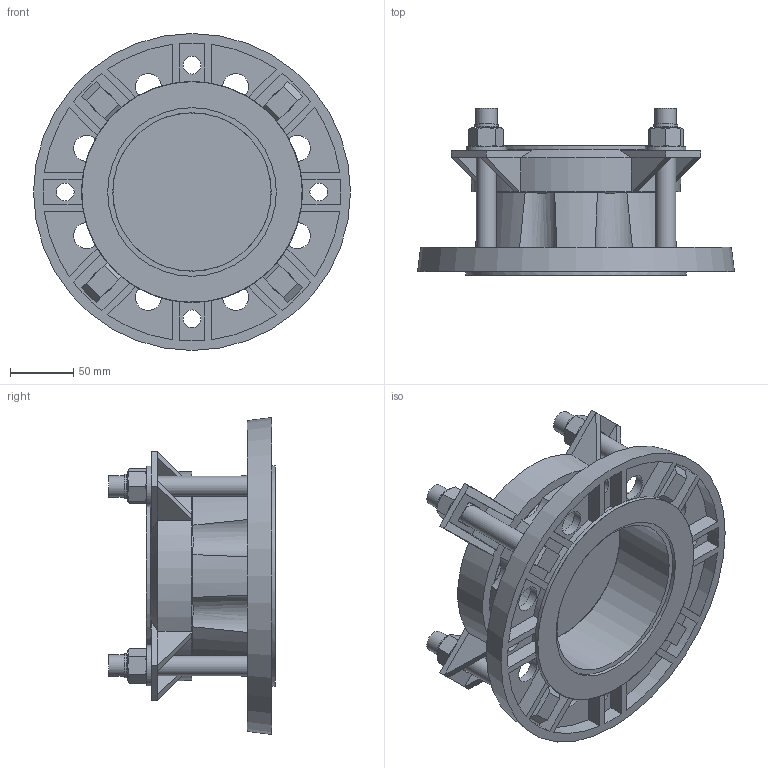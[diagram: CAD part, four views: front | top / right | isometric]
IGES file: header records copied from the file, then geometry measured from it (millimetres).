
Start section: SolidWorks IGES file using analytic representation for surfaces
Global section: file name: \\avksan2\techshare\PBM outline export from Enovia\O_623_10_DN100-125mm_X2XXXXX_REV01.igs; native system: SolidWorks 2019; preprocessor: SolidWorks 2019; author: pbm; date: 200417.102953; units: millimetre
Bounding box: 250 x 131.5 x 250 mm (x, y, z)
Surface area: 289135.2 mm2 (no closed solid volume)
Topology: 0 solids, 0 shells, 448 faces, 2235 edges, 2181 vertices
Faces by surface type: bspline 266, revolution 182
